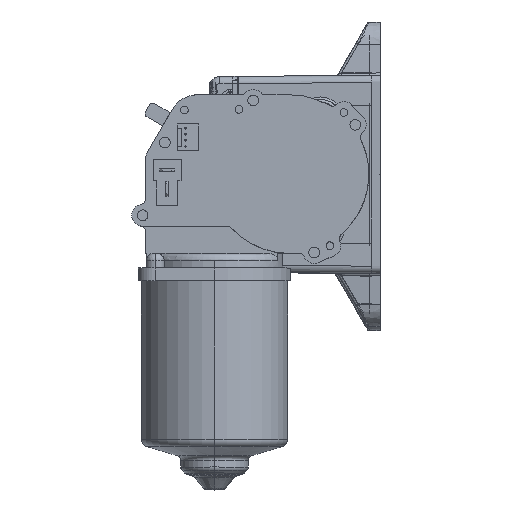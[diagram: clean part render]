
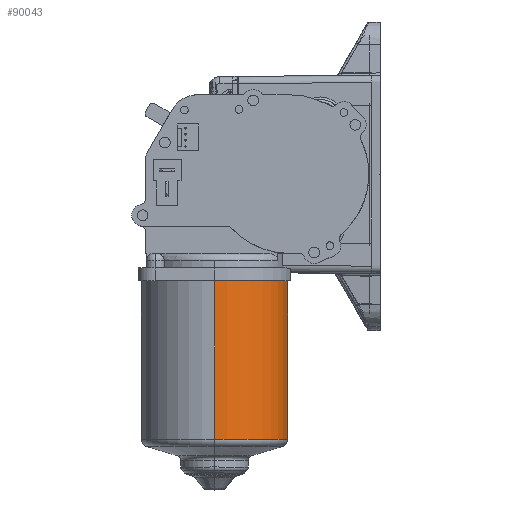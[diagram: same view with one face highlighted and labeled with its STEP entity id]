
A CAD part, top view. The second image highlights one B-rep face of the part: STEP entity #90043.
In plain terms, the highlighted cylindrical face has radius 30.3 mm (diameter 60.6 mm), a partial arc.
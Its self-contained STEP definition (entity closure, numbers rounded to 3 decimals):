
#3549 = CARTESIAN_POINT ( 'NONE',  ( -23.859, 3.635, 68.845 ) ) ;
#5294 = VERTEX_POINT ( 'NONE', #93369 ) ;
#7881 = DIRECTION ( 'NONE',  ( 0., 1., 0. ) ) ;
#11454 = LINE ( 'NONE', #3549, #111742 ) ;
#13446 = AXIS2_PLACEMENT_3D ( 'NONE', #155745, #77657, #38122 ) ;
#21349 = DIRECTION ( 'NONE',  ( 0., 1., 0. ) ) ;
#23978 = AXIS2_PLACEMENT_3D ( 'NONE', #99673, #21349, #112872 ) ;
#26576 = EDGE_CURVE ( 'NONE', #86081, #140979, #103181, .T. ) ;
#36995 = ORIENTED_EDGE ( 'NONE', *, *, #135075, .F. ) ;
#37606 = EDGE_CURVE ( 'NONE', #100966, #86081, #54963, .T. ) ;
#38122 = DIRECTION ( 'NONE',  ( 0., 0., 1. ) ) ;
#51381 = CARTESIAN_POINT ( 'NONE',  ( -23.859, -61.947, 8.245 ) ) ;
#54963 = CIRCLE ( 'NONE', #100069, 30.3 ) ;
#61151 = ORIENTED_EDGE ( 'NONE', *, *, #37606, .T. ) ;
#65187 = DIRECTION ( 'NONE',  ( 0., 1., 0. ) ) ;
#77657 = DIRECTION ( 'NONE',  ( 0., 1., 0. ) ) ;
#80693 = CARTESIAN_POINT ( 'NONE',  ( -23.859, 3.635, 8.245 ) ) ;
#82245 = ORIENTED_EDGE ( 'NONE', *, *, #167569, .F. ) ;
#84008 = CARTESIAN_POINT ( 'NONE',  ( -23.859, -61.947, 68.845 ) ) ;
#86081 = VERTEX_POINT ( 'NONE', #51381 ) ;
#86281 = CARTESIAN_POINT ( 'NONE',  ( -23.859, 3.635, 8.245 ) ) ;
#90043 = ADVANCED_FACE ( 'NONE', ( #160785 ), #156731, .T. ) ;
#93369 = CARTESIAN_POINT ( 'NONE',  ( -23.859, 3.635, 68.845 ) ) ;
#99673 = CARTESIAN_POINT ( 'NONE',  ( -23.859, 3.635, 38.545 ) ) ;
#100069 = AXIS2_PLACEMENT_3D ( 'NONE', #143423, #65187, #156465 ) ;
#100966 = VERTEX_POINT ( 'NONE', #84008 ) ;
#103181 = LINE ( 'NONE', #86281, #125663 ) ;
#111401 = CIRCLE ( 'NONE', #23978, 30.3 ) ;
#111742 = VECTOR ( 'NONE', #160051, 1000. ) ;
#112872 = DIRECTION ( 'NONE',  ( 0., 0., 1. ) ) ;
#125663 = VECTOR ( 'NONE', #7881, 1000. ) ;
#127594 = EDGE_LOOP ( 'NONE', ( #61151, #147321, #36995, #82245 ) ) ;
#135075 = EDGE_CURVE ( 'NONE', #5294, #140979, #111401, .T. ) ;
#140979 = VERTEX_POINT ( 'NONE', #80693 ) ;
#143423 = CARTESIAN_POINT ( 'NONE',  ( -23.859, -61.947, 38.545 ) ) ;
#147321 = ORIENTED_EDGE ( 'NONE', *, *, #26576, .T. ) ;
#155745 = CARTESIAN_POINT ( 'NONE',  ( -23.859, 3.635, 38.545 ) ) ;
#156465 = DIRECTION ( 'NONE',  ( 0., 0., -1. ) ) ;
#156731 = CYLINDRICAL_SURFACE ( 'NONE', #13446, 30.3 ) ;
#160051 = DIRECTION ( 'NONE',  ( 0., 1., 0. ) ) ;
#160785 = FACE_OUTER_BOUND ( 'NONE', #127594, .T. ) ;
#167569 = EDGE_CURVE ( 'NONE', #100966, #5294, #11454, .T. ) ;
